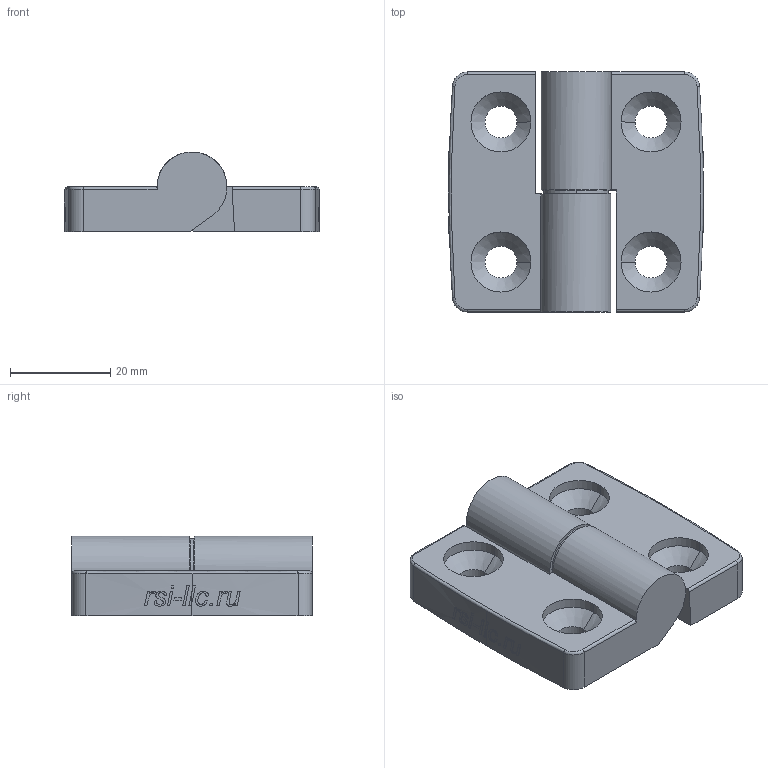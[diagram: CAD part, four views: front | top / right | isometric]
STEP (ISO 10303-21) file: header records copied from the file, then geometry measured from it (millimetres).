
FILE_DESCRIPTION (( 'STEP AP203' ), '1' );
FILE_NAME ('3179.STEP', '2025-06-20T08:57:29', ( '' ), ( '' ), 'SwSTEP 2.0', 'SolidWorks 2022', '' );
FILE_SCHEMA (( 'CONFIG_CONTROL_DESIGN' ));
Length unit declared in the file: millimetre
Products named in the file (4): 3179; 3179-2; 3179-1
Assembly tree (3 placements, depth 2):
  3179
    3179
    3179-1
    3179-2
Bounding box: 51 x 48 x 15.99 mm (x, y, z)
Volume: 19794.6 mm3; surface area: 10314.9 mm2
Topology: 3 solids, 3 shells, 290 faces, 748 edges, 490 vertices
Faces by surface type: plane 134, bspline 78, cylinder 62, cone 10, torus 6
Entity records: 11926 total; most frequent: CARTESIAN_POINT 5128, ORIENTED_EDGE 1496, DIRECTION 1060, EDGE_CURVE 748, VERTEX_POINT 490, AXIS2_PLACEMENT_3D 378, EDGE_LOOP 326, LINE 304
